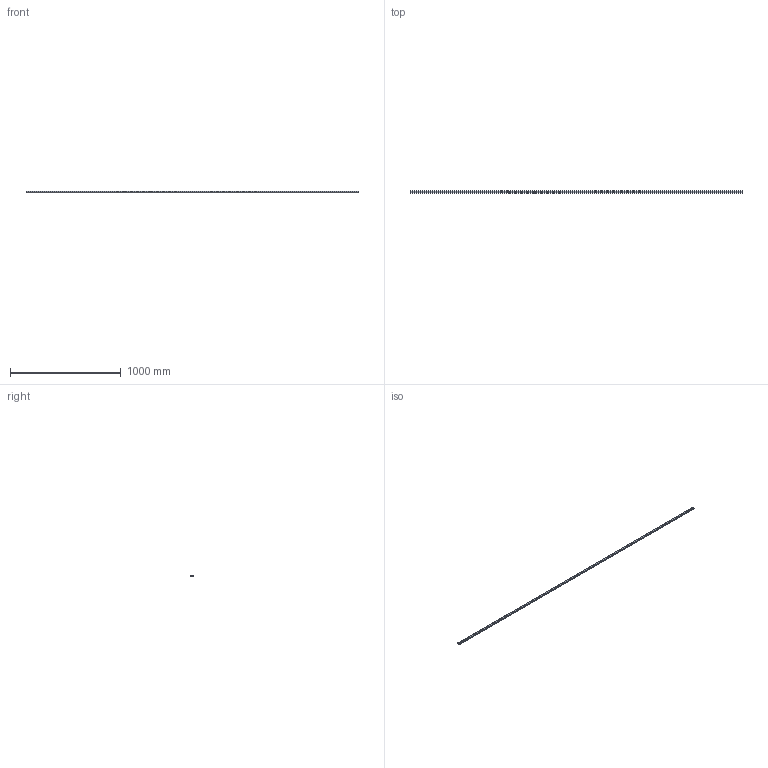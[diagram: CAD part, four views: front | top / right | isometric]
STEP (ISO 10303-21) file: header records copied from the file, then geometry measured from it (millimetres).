
FILE_DESCRIPTION (( 'STEP AP214' ), '1' );
FILE_NAME ('FABER - FL8.step', '2017-04-06T07:46:19', ( '' ), ( '' ), 'SwSTEP 2.0', 'SolidWorks 2016', '' );
FILE_SCHEMA (( 'AUTOMOTIVE_DESIGN' ));
Length unit declared in the file: millimetre
Products named in the file (1): FABER - FL8
Bounding box: 3000 x 20 x 15 mm (x, y, z)
Volume: 669238.9 mm3; surface area: 226693.9 mm2
Topology: 1 solids, 1 shells, 12 faces, 30 edges, 20 vertices
Faces by surface type: plane 11, cylinder 1
Entity records: 390 total; most frequent: CARTESIAN_POINT 63, ORIENTED_EDGE 60, DIRECTION 58, EDGE_CURVE 30, LINE 28, VECTOR 28, VERTEX_POINT 20, AXIS2_PLACEMENT_3D 15
